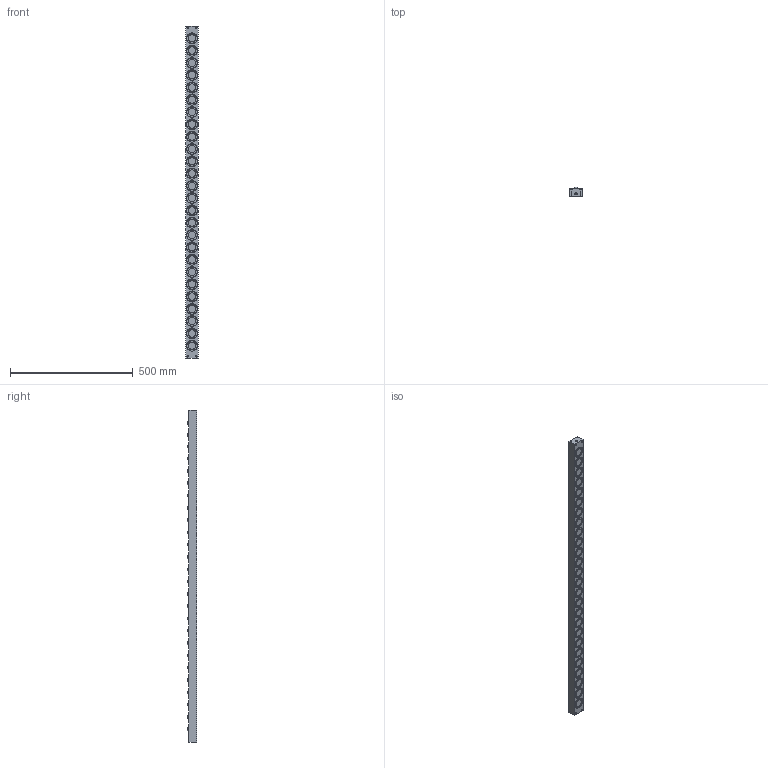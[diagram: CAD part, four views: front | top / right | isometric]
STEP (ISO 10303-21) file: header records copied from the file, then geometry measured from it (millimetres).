
FILE_DESCRIPTION (( 'STEP AP203' ), '1' );
FILE_NAME ('PVL55SL-26.STEP', '2016-02-18T07:28:55', ( '' ), ( '' ), 'SwSTEP 2.0', 'SolidWorks 2013', '' );
FILE_SCHEMA (( 'CONFIG_CONTROL_DESIGN' ));
Length unit declared in the file: millimetre
Products named in the file (1): PVL55SL-26
Bounding box: 49 x 38 x 1350 mm (x, y, z)
Volume: 2089561.1 mm3; surface area: 293137.2 mm2
Topology: 1 solids, 1 shells, 1047 faces, 2598 edges, 1739 vertices
Faces by surface type: cylinder 694, plane 297, sphere 52, cone 4
Entity records: 32155 total; most frequent: DIRECTION 6344, CARTESIAN_POINT 5383, ORIENTED_EDGE 5192, AXIS2_PLACEMENT_3D 2700, EDGE_CURVE 2596, VERTEX_POINT 1739, CIRCLE 1652, EDGE_LOOP 1243
